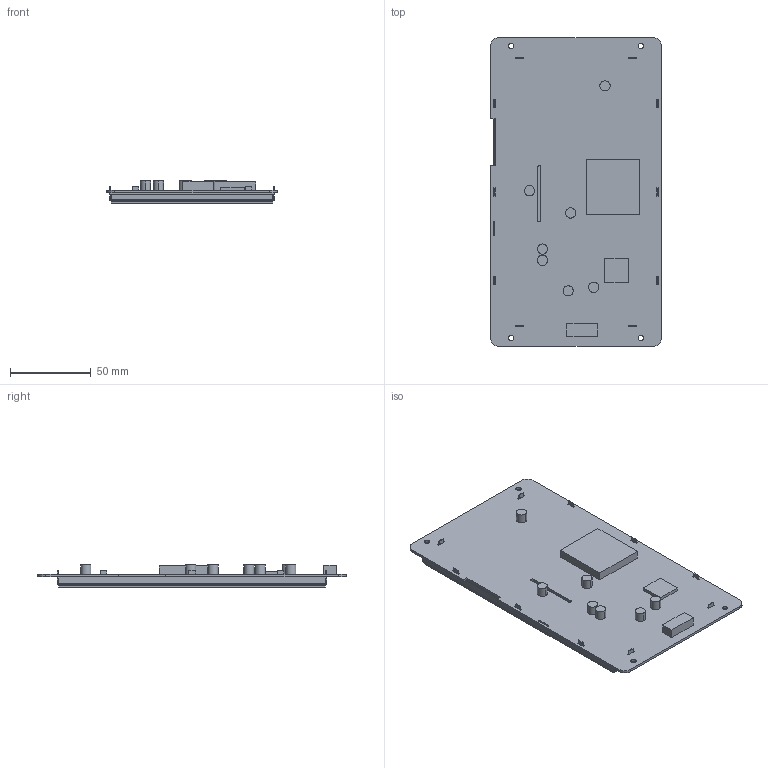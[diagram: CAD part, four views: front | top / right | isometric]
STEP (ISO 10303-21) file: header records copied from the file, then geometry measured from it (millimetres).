
FILE_DESCRIPTION((''),'2;1');
FILE_NAME('DMG80480T070-05WTC','2022-05-06T',('Administrator'),(''),'PRO/ENGINEER BY PARAMETRIC TECHNOLOGY CORPORATION, 2011310','PRO/ENGINEER BY PARAMETRIC TECHNOLOGY CORPORATION, 2011310','');
FILE_SCHEMA(('CONFIG_CONTROL_DESIGN','SHAPE_APPEARANCE_LAYERS_GROUPS'));
Length unit declared in the file: millimetre
Products named in the file (1): DMG80480T070-05WTC
Bounding box: 105.41 x 190.5 x 13.68 mm (x, y, z)
Volume: 119155.6 mm3; surface area: 112999.2 mm2
Topology: 1 solids, 1 shells, 251 faces, 757 edges, 489 vertices
Faces by surface type: plane 221, cylinder 30
Entity records: 9888 total; most frequent: ORIENTED_EDGE 1514, CARTESIAN_POINT 1497, DIRECTION 1331, EDGE_CURVE 757, VECTOR 685, LINE 685, VERTEX_POINT 489, AXIS2_PLACEMENT_3D 323
